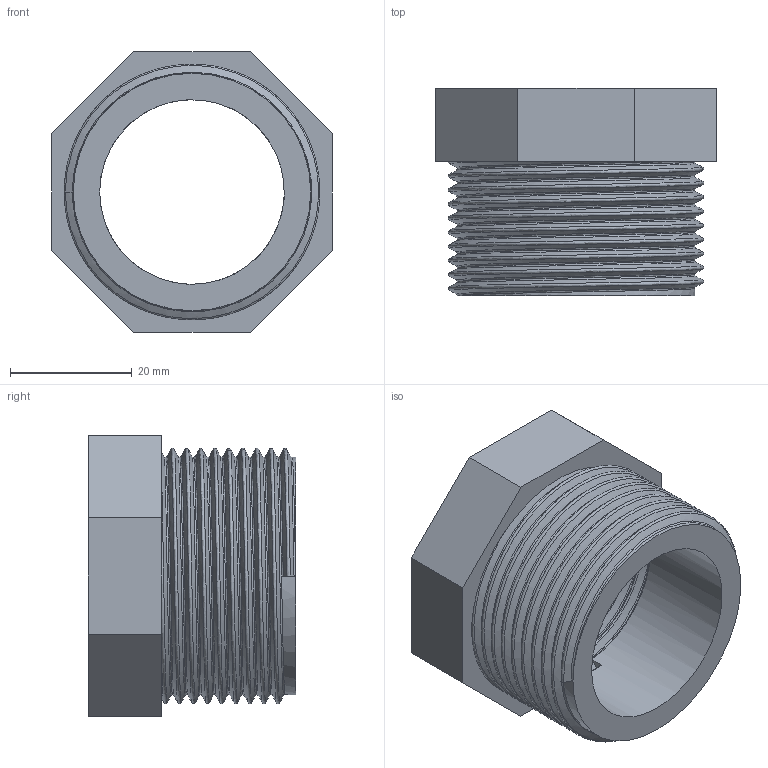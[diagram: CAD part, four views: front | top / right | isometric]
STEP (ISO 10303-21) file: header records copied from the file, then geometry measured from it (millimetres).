
FILE_DESCRIPTION(/* description */ ('PVC riduzione filettata BSP maschio-femmina'),/* implementation_level */ '2;1');
FILE_NAME(/* name */ 'C:\Users\POLYPIPE\Desktop\DATASET INVENTOR\LIBRERIA EFFAST\RACCORDI 3DxWEB\RER\3D_RERRCE\3D_RERRCE040D.stp',/* time_stamp */ '2018-01-19T16:58:14+01:00',/* author */ ('POLYPIPE'),/* organization */ ('Polypipe Italia s.r.l.'),/* preprocessor_version */ 'ST-DEVELOPER v16.1',/* originating_system */ 'Autodesk Inventor 2016',/* authorisation */ '');
FILE_SCHEMA (('CONFIG_CONTROL_DESIGN'));
Length unit declared in the file: millimetre
Products named in the file (1): 3D_RERRCE
Bounding box: 46 x 34 x 46 mm (x, y, z)
Volume: 23388.7 mm3; surface area: 12996.4 mm2
Topology: 1 solids, 1 shells, 25 faces, 62 edges, 40 vertices
Faces by surface type: plane 13, bspline 10, cylinder 2
Full cylindrical faces by diameter (mm): 30.291 x1, 38.952 x1
Entity records: 7394 total; most frequent: CARTESIAN_POINT 6847, ORIENTED_EDGE 120, DIRECTION 78, EDGE_CURVE 60, VERTEX_POINT 39, LINE 30, VECTOR 30, EDGE_LOOP 29
